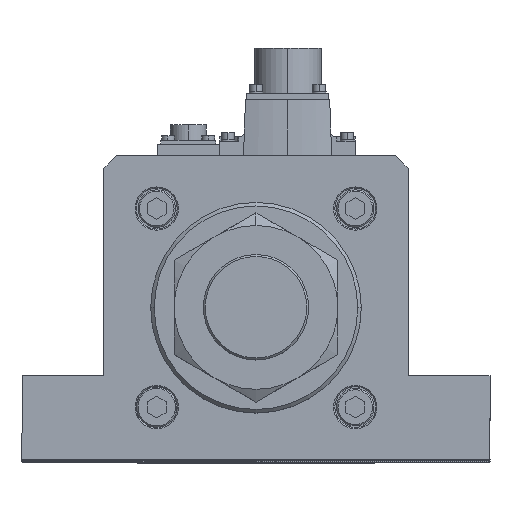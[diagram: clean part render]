
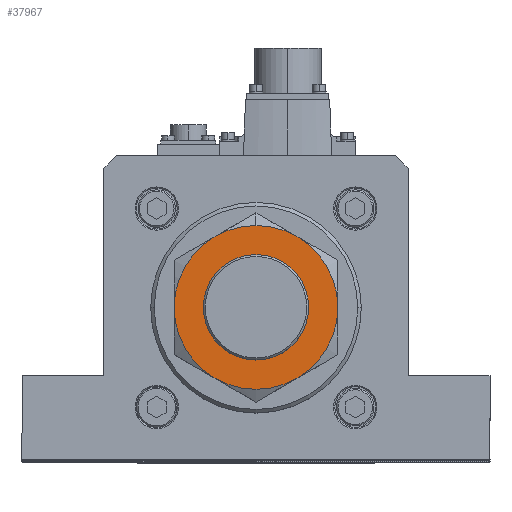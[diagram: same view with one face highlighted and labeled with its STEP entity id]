
A CAD part, top view. The second image highlights one B-rep face of the part: STEP entity #37967.
In plain terms, the highlighted planar face has unit normal (0, 0, 1).
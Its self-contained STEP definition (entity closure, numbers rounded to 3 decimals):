
#261 = AXIS2_PLACEMENT_3D ( 'NONE', #7529, #1246, #4318 ) ;
#782 = DIRECTION ( 'NONE',  ( 0., 0., -1. ) ) ;
#1182 = PLANE ( 'NONE',  #3523 ) ;
#1246 = DIRECTION ( 'NONE',  ( 0., 0., 1. ) ) ;
#1677 = CIRCLE ( 'NONE', #38796, 35. ) ;
#1995 = DIRECTION ( 'NONE',  ( 0., 1., 0. ) ) ;
#2134 = EDGE_CURVE ( 'NONE', #30362, #32003, #5809, .T. ) ;
#2474 = DIRECTION ( 'NONE',  ( 0., 1., 0. ) ) ;
#2844 = DIRECTION ( 'NONE',  ( 0., 1., 0. ) ) ;
#2985 = CARTESIAN_POINT ( 'NONE',  ( 0., 0., 27. ) ) ;
#3523 = AXIS2_PLACEMENT_3D ( 'NONE', #31717, #19572, #26110 ) ;
#3927 = AXIS2_PLACEMENT_3D ( 'NONE', #36560, #39635, #9491 ) ;
#4318 = DIRECTION ( 'NONE',  ( 1., 0., 0. ) ) ;
#4586 = CARTESIAN_POINT ( 'NONE',  ( 22.5, 0., 27. ) ) ;
#5198 = ORIENTED_EDGE ( 'NONE', *, *, #22702, .F. ) ;
#5255 = AXIS2_PLACEMENT_3D ( 'NONE', #38501, #23022, #28886 ) ;
#5809 = CIRCLE ( 'NONE', #28578, 35. ) ;
#5937 = DIRECTION ( 'NONE',  ( 0., 0., -1. ) ) ;
#5974 = DIRECTION ( 'NONE',  ( 0., 0., -1. ) ) ;
#6370 = CIRCLE ( 'NONE', #3927, 35. ) ;
#6479 = VERTEX_POINT ( 'NONE', #19391 ) ;
#6568 = FACE_BOUND ( 'NONE', #26420, .T. ) ;
#7529 = CARTESIAN_POINT ( 'NONE',  ( 0., 0., 27. ) ) ;
#8546 = ORIENTED_EDGE ( 'NONE', *, *, #21899, .F. ) ;
#8927 = CARTESIAN_POINT ( 'NONE',  ( -17.5, -30.311, 27. ) ) ;
#9025 = AXIS2_PLACEMENT_3D ( 'NONE', #2985, #5937, #2844 ) ;
#9491 = DIRECTION ( 'NONE',  ( 0., 1., 0. ) ) ;
#9515 = ORIENTED_EDGE ( 'NONE', *, *, #13937, .F. ) ;
#10912 = AXIS2_PLACEMENT_3D ( 'NONE', #36484, #5974, #21163 ) ;
#11232 = CARTESIAN_POINT ( 'NONE',  ( 0., 0., 27. ) ) ;
#11440 = EDGE_CURVE ( 'NONE', #15514, #38143, #26267, .T. ) ;
#12631 = VERTEX_POINT ( 'NONE', #28393 ) ;
#12944 = CIRCLE ( 'NONE', #5255, 22.5 ) ;
#13937 = EDGE_CURVE ( 'NONE', #12631, #18041, #25193, .T. ) ;
#14113 = CARTESIAN_POINT ( 'NONE',  ( 0., 0., 27. ) ) ;
#14358 = EDGE_LOOP ( 'NONE', ( #9515, #8546, #5198, #33997, #23243, #21631, #31718 ) ) ;
#14632 = DIRECTION ( 'NONE',  ( 0., 0., -1. ) ) ;
#15514 = VERTEX_POINT ( 'NONE', #4586 ) ;
#18041 = VERTEX_POINT ( 'NONE', #21628 ) ;
#18604 = CARTESIAN_POINT ( 'NONE',  ( 17.5, 30.311, 27. ) ) ;
#18658 = DIRECTION ( 'NONE',  ( 0., 0., -1. ) ) ;
#18786 = DIRECTION ( 'NONE',  ( 0., 1., 0. ) ) ;
#19391 = CARTESIAN_POINT ( 'NONE',  ( 0., 35., 27. ) ) ;
#19572 = DIRECTION ( 'NONE',  ( 0., 0., 1. ) ) ;
#20540 = DIRECTION ( 'NONE',  ( 0., 0., -1. ) ) ;
#20739 = VERTEX_POINT ( 'NONE', #35824 ) ;
#21163 = DIRECTION ( 'NONE',  ( 0., 1., 0. ) ) ;
#21622 = CARTESIAN_POINT ( 'NONE',  ( 0., 0., 27. ) ) ;
#21628 = CARTESIAN_POINT ( 'NONE',  ( 17.5, -30.311, 27. ) ) ;
#21631 = ORIENTED_EDGE ( 'NONE', *, *, #2134, .F. ) ;
#21721 = AXIS2_PLACEMENT_3D ( 'NONE', #14113, #14632, #2474 ) ;
#21899 = EDGE_CURVE ( 'NONE', #27524, #12631, #30100, .T. ) ;
#22702 = EDGE_CURVE ( 'NONE', #6479, #27524, #22893, .T. ) ;
#22893 = CIRCLE ( 'NONE', #10912, 35. ) ;
#23022 = DIRECTION ( 'NONE',  ( 0., 0., 1. ) ) ;
#23243 = ORIENTED_EDGE ( 'NONE', *, *, #39137, .F. ) ;
#23338 = ORIENTED_EDGE ( 'NONE', *, *, #11440, .F. ) ;
#25063 = CARTESIAN_POINT ( 'NONE',  ( 0., 0., 27. ) ) ;
#25193 = CIRCLE ( 'NONE', #9025, 35. ) ;
#25361 = EDGE_CURVE ( 'NONE', #18041, #30362, #33994, .T. ) ;
#26110 = DIRECTION ( 'NONE',  ( 1., 0., 0. ) ) ;
#26267 = CIRCLE ( 'NONE', #261, 22.5 ) ;
#26420 = EDGE_LOOP ( 'NONE', ( #26667, #23338 ) ) ;
#26667 = ORIENTED_EDGE ( 'NONE', *, *, #37073, .F. ) ;
#26956 = EDGE_CURVE ( 'NONE', #20739, #6479, #6370, .T. ) ;
#27045 = FACE_OUTER_BOUND ( 'NONE', #14358, .T. ) ;
#27524 = VERTEX_POINT ( 'NONE', #18604 ) ;
#28393 = CARTESIAN_POINT ( 'NONE',  ( 35., 0., 27. ) ) ;
#28578 = AXIS2_PLACEMENT_3D ( 'NONE', #21622, #18658, #30671 ) ;
#28886 = DIRECTION ( 'NONE',  ( 1., 0., 0. ) ) ;
#29763 = CARTESIAN_POINT ( 'NONE',  ( -35., 0., 27. ) ) ;
#30100 = CIRCLE ( 'NONE', #32856, 35. ) ;
#30362 = VERTEX_POINT ( 'NONE', #8927 ) ;
#30671 = DIRECTION ( 'NONE',  ( 0., 1., 0. ) ) ;
#31717 = CARTESIAN_POINT ( 'NONE',  ( 0., 0., 27. ) ) ;
#31718 = ORIENTED_EDGE ( 'NONE', *, *, #25361, .F. ) ;
#32003 = VERTEX_POINT ( 'NONE', #29763 ) ;
#32856 = AXIS2_PLACEMENT_3D ( 'NONE', #11232, #20540, #1995 ) ;
#32883 = CARTESIAN_POINT ( 'NONE',  ( -22.5, 0., 27. ) ) ;
#33994 = CIRCLE ( 'NONE', #21721, 35. ) ;
#33997 = ORIENTED_EDGE ( 'NONE', *, *, #26956, .F. ) ;
#35824 = CARTESIAN_POINT ( 'NONE',  ( -17.5, 30.311, 27. ) ) ;
#36484 = CARTESIAN_POINT ( 'NONE',  ( 0., 0., 27. ) ) ;
#36560 = CARTESIAN_POINT ( 'NONE',  ( 0., 0., 27. ) ) ;
#37073 = EDGE_CURVE ( 'NONE', #38143, #15514, #12944, .T. ) ;
#37967 = ADVANCED_FACE ( 'NONE', ( #27045, #6568 ), #1182, .T. ) ;
#38143 = VERTEX_POINT ( 'NONE', #32883 ) ;
#38501 = CARTESIAN_POINT ( 'NONE',  ( 0., 0., 27. ) ) ;
#38796 = AXIS2_PLACEMENT_3D ( 'NONE', #25063, #782, #18786 ) ;
#39137 = EDGE_CURVE ( 'NONE', #32003, #20739, #1677, .T. ) ;
#39635 = DIRECTION ( 'NONE',  ( 0., 0., -1. ) ) ;
